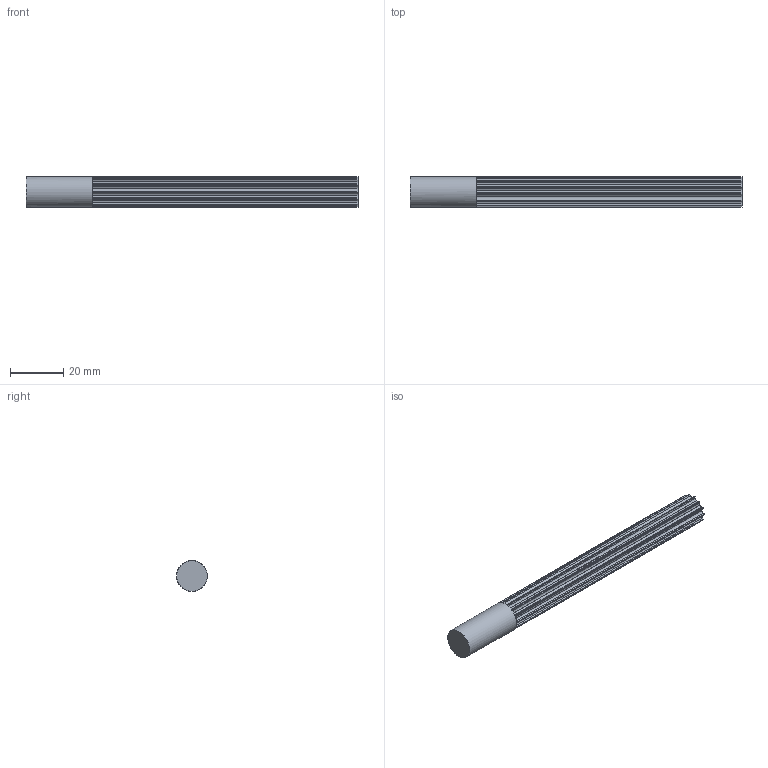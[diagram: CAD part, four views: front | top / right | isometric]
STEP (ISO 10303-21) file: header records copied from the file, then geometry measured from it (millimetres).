
FILE_DESCRIPTION( ( 'STEP AP214' ), '1' );
FILE_NAME( 'C:/Users/StangenbergN/Desktop/Steps Zahnriemenräder/K166_HTD-Zahnwellen/17091300.stp', '2019-06-06T09:33:21', ( '' ), ( '' ), ' ', 'PARTsolutions', ' ' );
FILE_SCHEMA( ( 'AUTOMOTIVE_DESIGN { 1 0 10303 214 1 1 1 1 }' ) );
Length unit declared in the file: millimetre
Products named in the file (1): _17091300
Bounding box: 125 x 11.65 x 11.65 mm (x, y, z)
Volume: 10674 mm3; surface area: 5981.6 mm2
Topology: 1 solids, 1 shells, 107 faces, 315 edges, 210 vertices
Faces by surface type: plane 54, cylinder 53
Full cylindrical faces by diameter (mm): 11.65 x1
Entity records: 4478 total; most frequent: DIRECTION 660, CARTESIAN_POINT 630, ORIENTED_EDGE 626, EDGE_CURVE 313, AXIS2_PLACEMENT_3D 239, VERTEX_POINT 209, LINE 182, VECTOR 182
